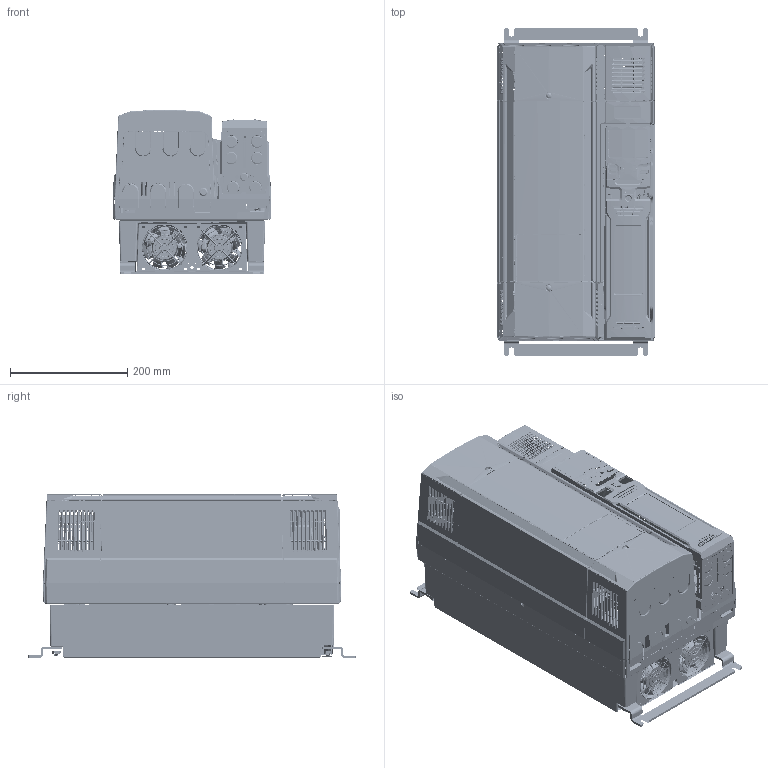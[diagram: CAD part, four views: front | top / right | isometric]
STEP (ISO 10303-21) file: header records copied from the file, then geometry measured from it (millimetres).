
FILE_DESCRIPTION((''),'2;1');
FILE_NAME('EXTERNAL_GT11-F09','2013-08-29T',('P94061'),(''),'PRO/ENGINEER BY PARAMETRIC TECHNOLOGY CORPORATION, 2011490','PRO/ENGINEER BY PARAMETRIC TECHNOLOGY CORPORATION, 2011490','');
FILE_SCHEMA(('CONFIG_CONTROL_DESIGN'));
Products named in the file (1): EXTERNAL_GT11-F09
Bounding box: 270.01 x 557 x 280.34 mm (x, y, z)
Surface area: 1887592 mm2 (no closed solid volume)
Topology: 0 solids, 1655 shells, 5060 faces, 42919 edges, 38994 vertices
Faces by surface type: plane 2555, cylinder 1369, bspline 409, cone 324, torus 213, extrusion 174, sphere 16
Entity records: 451309 total; most frequent: CARTESIAN_POINT 179084, ORIENTED_EDGE 48121, DIRECTION 43168, EDGE_CURVE 42911, VERTEX_POINT 38995, VECTOR 23550, LINE 23376, B_SPLINE_CURVE_WITH_KNOTS 14377
